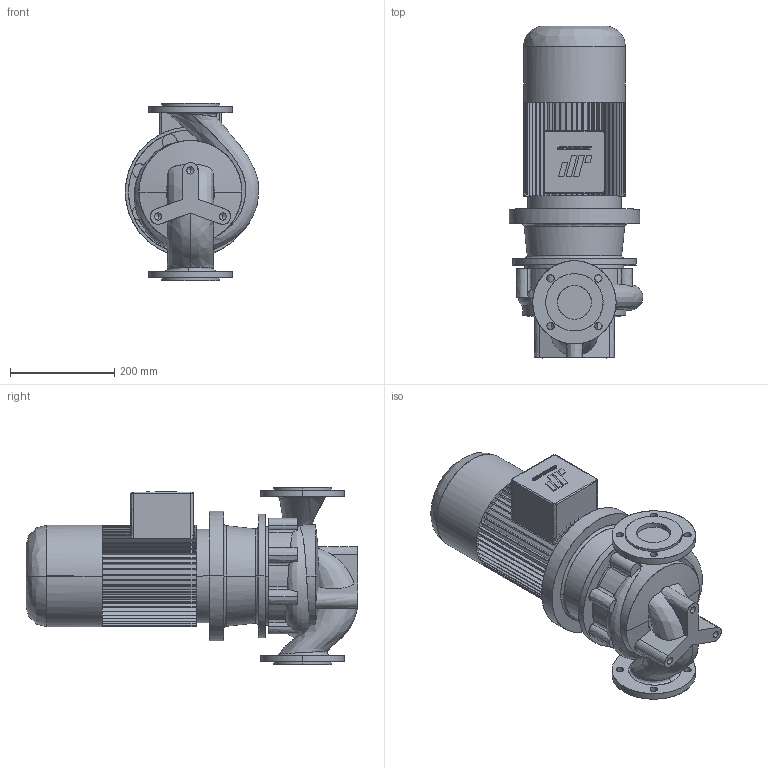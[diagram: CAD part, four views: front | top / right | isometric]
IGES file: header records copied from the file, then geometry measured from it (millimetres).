
Start section: CombiLine
Global section: file name: CLB_65-160_IEC100L.igs; native system:  By UGS Corp.; preprocessor: XPlus GENERIC/IGES 3.0; author: Stageplaats; organization: Johnson Pump Water B.V.; date: 20070713.132910; units: millimetre
Bounding box: 255.94 x 637.5 x 340 mm (x, y, z)
Surface area: 861269.7 mm2 (no closed solid volume)
Topology: 0 solids, 0 shells, 668 faces, 3840 edges, 3834 vertices
Faces by surface type: bspline 668
